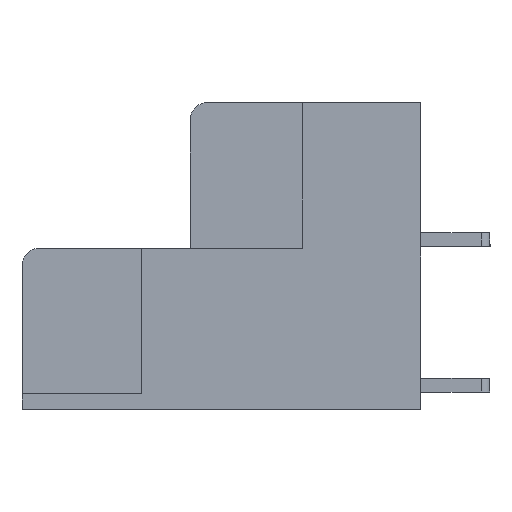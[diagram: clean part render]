
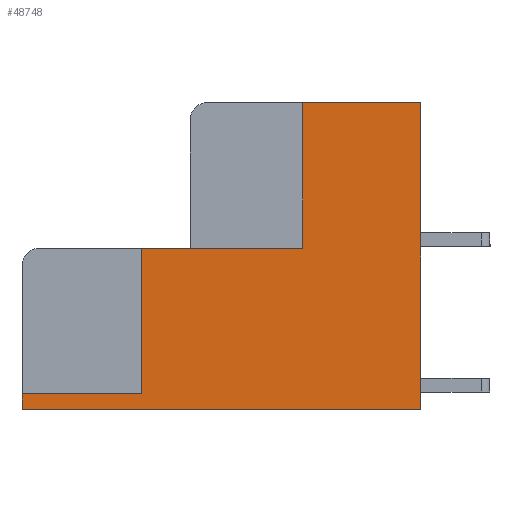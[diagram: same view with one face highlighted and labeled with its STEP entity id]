
A CAD part, left-side view. The second image highlights one B-rep face of the part: STEP entity #48748.
In plain terms, the highlighted planar face has unit normal (-1, 0, 0).
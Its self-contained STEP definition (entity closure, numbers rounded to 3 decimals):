
#2824=VECTOR('',#55966,1.);
#3071=VECTOR('',#56336,1.);
#3072=VECTOR('',#56338,1.);
#3074=VECTOR('',#56341,1.);
#3076=VECTOR('',#56344,1.);
#3114=VECTOR('',#56383,1.);
#3116=VECTOR('',#56386,1.);
#3117=VECTOR('',#56388,1.);
#8187=LINE('',#69001,#2824);
#8434=LINE('',#69545,#3071);
#8435=LINE('',#69547,#3072);
#8437=LINE('',#69551,#3074);
#8439=LINE('',#69555,#3076);
#8477=LINE('',#69630,#3114);
#8479=LINE('',#69634,#3116);
#8480=LINE('',#69636,#3117);
#13445=VERTEX_POINT('',#69000);
#13446=VERTEX_POINT('',#69002);
#13613=VERTEX_POINT('',#69473);
#13648=VERTEX_POINT('',#69544);
#13649=VERTEX_POINT('',#69550);
#13650=VERTEX_POINT('',#69554);
#13686=VERTEX_POINT('',#69629);
#13687=VERTEX_POINT('',#69633);
#19329=EDGE_CURVE('',#13445,#13446,#8187,.T.);
#19604=EDGE_CURVE('',#13648,#13613,#8434,.T.);
#19605=EDGE_CURVE('',#13446,#13648,#8435,.T.);
#19607=EDGE_CURVE('',#13649,#13445,#8437,.T.);
#19609=EDGE_CURVE('',#13650,#13649,#8439,.T.);
#19647=EDGE_CURVE('',#13686,#13650,#8477,.T.);
#19649=EDGE_CURVE('',#13687,#13686,#8479,.T.);
#19650=EDGE_CURVE('',#13613,#13687,#8480,.T.);
#28517=ORIENTED_EDGE('',*,*,#19649,.F.);
#28518=ORIENTED_EDGE('',*,*,#19650,.F.);
#28519=ORIENTED_EDGE('',*,*,#19604,.F.);
#28520=ORIENTED_EDGE('',*,*,#19605,.F.);
#28521=ORIENTED_EDGE('',*,*,#19329,.F.);
#28522=ORIENTED_EDGE('',*,*,#19607,.F.);
#28523=ORIENTED_EDGE('',*,*,#19609,.F.);
#28524=ORIENTED_EDGE('',*,*,#19647,.F.);
#41744=EDGE_LOOP('',(#28517,#28518,#28519,#28520,#28521,#28522,#28523,#28524));
#45264=FACE_BOUND('',#41744,.T.);
#48748=ADVANCED_FACE('',(#45264),#97372,.F.);
#51875=AXIS2_PLACEMENT_3D('',#69635,#56387,$);
#55966=DIRECTION('',(0.,-1.,0.));
#56336=DIRECTION('',(0.,-1.,0.));
#56338=DIRECTION('',(0.,0.,1.));
#56341=DIRECTION('',(0.,0.,1.));
#56344=DIRECTION('',(0.,-1.,0.));
#56383=DIRECTION('',(0.,0.,1.));
#56386=DIRECTION('',(0.,1.,0.));
#56387=DIRECTION('',(1.,0.,0.));
#56388=DIRECTION('',(0.,0.,-1.));
#69000=CARTESIAN_POINT('',(0.,16.1,9.3));
#69001=CARTESIAN_POINT('',(0.,16.1,9.3));
#69002=CARTESIAN_POINT('',(0.,6.8,9.3));
#69473=CARTESIAN_POINT('',(0.,0.,17.7));
#69544=CARTESIAN_POINT('',(0.,6.8,17.7));
#69545=CARTESIAN_POINT('',(0.,6.8,17.7));
#69547=CARTESIAN_POINT('',(0.,6.8,9.3));
#69550=CARTESIAN_POINT('',(0.,16.1,0.9));
#69551=CARTESIAN_POINT('',(0.,16.1,0.9));
#69554=CARTESIAN_POINT('',(0.,23.,0.9));
#69555=CARTESIAN_POINT('',(0.,23.,0.9));
#69629=CARTESIAN_POINT('',(0.,23.,0.));
#69630=CARTESIAN_POINT('',(0.,23.,0.));
#69633=CARTESIAN_POINT('',(0.,0.,0.));
#69634=CARTESIAN_POINT('',(0.,0.,0.));
#69635=CARTESIAN_POINT('',(0.,10.603,3.753));
#69636=CARTESIAN_POINT('',(0.,0.,9.3));
#97372=PLANE('',#51875);
